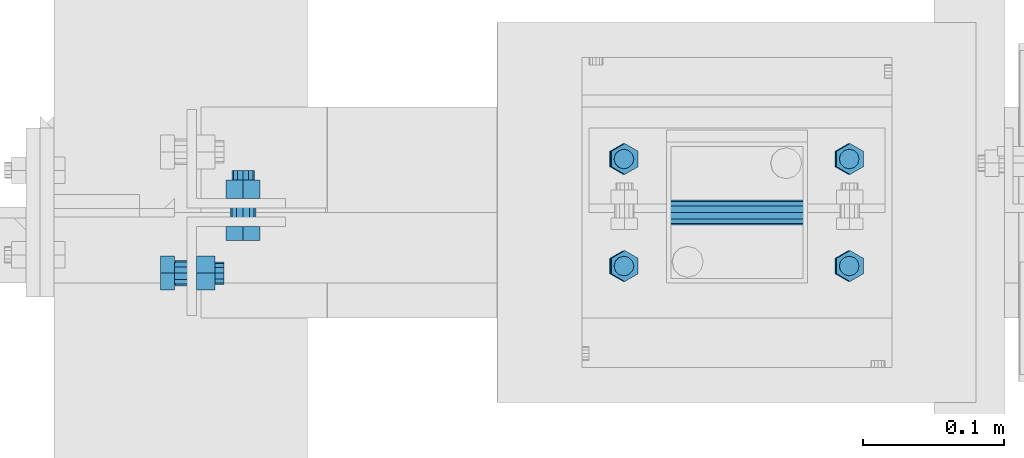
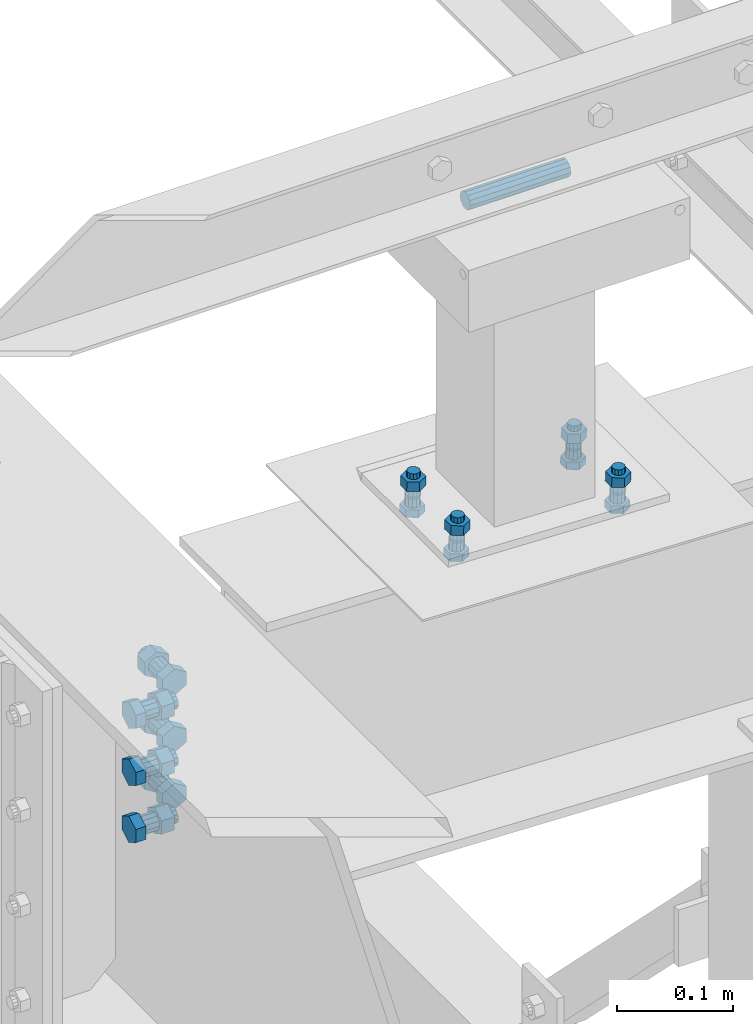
# One storey, part 38 of 3134: 5 mechanical fasteners, 3 elements without a shape of their own.
"""IFC2X3 building model written with IfcOpenShell, lengths in millimetres."""

from ifc_helpers import new_model, si_unit, frame, origin_with_axes, place, context, subcontext, project, spatial, faceted_brep, source, transform, mapped, material, type_object, element, aggregate, save


model = new_model("IFC2X3")

# Units and contexts
model_context = context("Model", 3, precision=1e-05, world=origin_with_axes())
body_context = subcontext(model_context, "Body", "Model", "MODEL_VIEW")
ifc_project = project(units=[si_unit("LENGTHUNIT", "METRE", prefix="MILLI"), si_unit("AREAUNIT", "SQUARE_METRE"), si_unit("VOLUMEUNIT", "CUBIC_METRE"), si_unit("MASSUNIT", "GRAM", prefix="KILO"), si_unit("TIMEUNIT", "SECOND"), si_unit("PLANEANGLEUNIT", "RADIAN"), si_unit("SOLIDANGLEUNIT", "STERADIAN"), si_unit("THERMODYNAMICTEMPERATUREUNIT", "DEGREE_CELSIUS"), si_unit("LUMINOUSINTENSITYUNIT", "LUMEN")], contexts=[model_context])

# Site, building, storey
site_placement = place(None, origin_with_axes())
site = spatial("IfcSite", under=ifc_project, at=site_placement, CompositionType="ELEMENT")
building_placement = place(site_placement, origin_with_axes())
building = spatial("IfcBuilding", under=site, at=building_placement, Name="Undefined", CompositionType="ELEMENT")
storey_placement = place(building_placement, origin_with_axes())
storey = spatial("IfcBuildingStorey", under=building, at=storey_placement, Name="Undefined", CompositionType="ELEMENT", Elevation=0.0)

# Assembly, mechanical fasteners
assembly_1_placement = place(storey_placement, origin_with_axes())
assembly_1 = element("IfcElementAssembly", 1, at=assembly_1_placement, inside=storey, AssemblyPlace="NOTDEFINED", PredefinedType="RIGID_FRAME")
ifc_material = material(Name="8.8")
mechanical_fastener_type = type_object("IfcMechanicalFastenerType", Name="Bolt assembly")
shared_shape_1 = source(origin_with_axes(), body_context, "Body", "Brep", [
    faceted_brep([(13.856406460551, -18.5936482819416, 0.0), (6.92820323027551, -18.5936482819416, 12.0), (-6.92820323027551, -18.5936482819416, 12.0), (-13.856406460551, -18.5936482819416, 1.69692038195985e-15), (-6.92820323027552, -18.5936482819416, -12.0), (6.9282032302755, -18.5936482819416, -12.0), (6.9282032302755, -8.59364828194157, -12.0), (-6.92820323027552, -8.59364828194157, -12.0), (-13.856406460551, -8.59364828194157, 1.69692038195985e-15), (-6.92820323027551, -8.59364828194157, 12.0), (6.92820323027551, -8.59364828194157, 12.0), (13.856406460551, -8.59364828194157, 0.0), (8.0, -8.59364828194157, 0.0), (6.92820323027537, -8.59364828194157, 4.00000000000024), (3.99999999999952, -8.59364828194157, 6.92820323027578), (-8.29068785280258e-13, -8.59364828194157, 8.0), (-4.00000000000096, -8.59364828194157, 6.92820323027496), (-6.9282032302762, -8.59364828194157, 3.99999999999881), (-8.0, -8.59364828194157, -1.65813757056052e-12), (-6.92820323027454, -8.59364828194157, -4.00000000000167), (-3.99999999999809, -8.59364828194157, -6.92820323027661), (2.47832457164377e-12, -8.59364828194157, -8.0), (4.00000000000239, -8.59364828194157, -6.92820323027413), (6.92820323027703, -8.59364828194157, -3.99999999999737), (6.92820323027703, 26.4063517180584, -3.99999999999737), (4.00000000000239, 26.4063517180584, -6.92820323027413), (2.47832457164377e-12, 26.4063517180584, -8.0), (-3.99999999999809, 26.4063517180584, -6.92820323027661), (-6.92820323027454, 26.4063517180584, -4.00000000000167), (-8.0, 26.4063517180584, -1.65813757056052e-12), (-6.9282032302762, 26.4063517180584, 3.99999999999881), (-4.00000000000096, 26.4063517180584, 6.92820323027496), (-8.29068785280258e-13, 26.4063517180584, 8.0), (3.99999999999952, 26.4063517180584, 6.92820323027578), (6.92820323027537, 26.4063517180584, 4.00000000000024), (8.0, 26.4063517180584, 0.0), (13.856406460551, 7.0, 0.0), (6.92820323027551, 7.0, 12.0), (-6.92820323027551, 7.0, 12.0), (-13.856406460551, 7.0, 1.69692038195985e-15), (-6.92820323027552, 7.0, -12.0), (6.9282032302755, 7.0, -12.0), (6.9282032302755, 20.0, -12.0), (-6.92820323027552, 20.0, -12.0), (-13.856406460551, 20.0, 1.69692038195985e-15), (-6.92820323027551, 20.0, 12.0), (6.92820323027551, 20.0, 12.0), (13.856406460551, 20.0, 0.0)], [[[0, 1, 2, 3, 4, 5]], [[6, 7, 8, 9, 10, 11]], [[0, 11, 10, 1]], [[1, 10, 9, 2]], [[2, 9, 8, 3]], [[3, 8, 7, 4]], [[4, 7, 6, 5]], [[5, 6, 11, 0]], [[12, 13, 14, 15, 16, 17, 18, 19, 20, 21, 22, 23]], [[24, 25, 26, 27, 28, 29, 30, 31, 32, 33, 34, 35]], [[12, 35, 34, 13]], [[13, 34, 33, 14]], [[14, 33, 32, 15]], [[15, 32, 31, 16]], [[16, 31, 30, 17]], [[17, 30, 29, 18]], [[18, 29, 28, 19]], [[19, 28, 27, 20]], [[20, 27, 26, 21]], [[21, 26, 25, 22]], [[22, 25, 24, 23]], [[23, 24, 35, 12]], [[36, 37, 38, 39, 40, 41]], [[42, 43, 44, 45, 46, 47]], [[36, 47, 46, 37]], [[37, 46, 45, 38]], [[38, 45, 44, 39]], [[39, 44, 43, 40]], [[40, 43, 42, 41]], [[41, 42, 47, 36]]]),
    faceted_brep([(9.0, -8.49364828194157, 0.0), (7.79422863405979, -8.49364828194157, 4.50000000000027), (4.49999999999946, -8.49364828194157, 7.79422863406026), (-9.3270238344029e-13, -8.49364828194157, 9.0), (-4.50000000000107, -8.49364828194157, 7.79422863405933), (-7.79422863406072, -8.49364828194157, 4.49999999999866), (-9.0, -8.49364828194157, -1.86540476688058e-12), (-7.79422863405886, -8.49364828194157, -4.50000000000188), (-4.49999999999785, -8.49364828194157, -7.79422863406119), (2.78811514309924e-12, -8.49364828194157, -9.0), (4.50000000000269, -8.49364828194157, -7.7942286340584), (7.79422863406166, -8.49364828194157, -4.49999999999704), (7.79422863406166, 0.10635209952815, -4.49999999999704), (4.50000000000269, 0.10635209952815, -7.7942286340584), (2.78811514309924e-12, 0.10635209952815, -9.0), (-4.49999999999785, 0.10635209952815, -7.79422863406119), (-7.79422863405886, 0.10635209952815, -4.50000000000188), (-9.0, 0.10635209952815, -1.86540476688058e-12), (-7.79422863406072, 0.10635209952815, 4.49999999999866), (-4.50000000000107, 0.10635209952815, 7.79422863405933), (-9.3270238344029e-13, 0.10635209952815, 9.0), (4.49999999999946, 0.10635209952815, 7.79422863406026), (7.79422863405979, 0.10635209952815, 4.50000000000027), (9.0, 0.10635209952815, 0.0), (9.0, -0.1, 0.0), (7.79422863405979, -0.1, 4.50000000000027), (4.49999999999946, -0.1, 7.79422863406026), (-9.3270238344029e-13, -0.1, 9.0), (-4.50000000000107, -0.1, 7.79422863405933), (-7.79422863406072, -0.1, 4.49999999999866), (-9.0, -0.1, -1.86540476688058e-12), (-7.79422863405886, -0.1, -4.50000000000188), (-4.49999999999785, -0.1, -7.79422863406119), (2.78811514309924e-12, -0.1, -9.0), (4.50000000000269, -0.1, -7.7942286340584), (7.79422863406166, -0.1, -4.49999999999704), (7.79422863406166, 7.0, -4.49999999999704), (4.50000000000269, 7.0, -7.7942286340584), (2.78811514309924e-12, 7.0, -9.0), (-4.49999999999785, 7.0, -7.79422863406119), (-7.79422863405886, 7.0, -4.50000000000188), (-9.0, 7.0, -1.86540476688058e-12), (-7.79422863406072, 7.0, 4.49999999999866), (-4.50000000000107, 7.0, 7.79422863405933), (-9.3270238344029e-13, 7.0, 9.0), (4.49999999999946, 7.0, 7.79422863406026), (7.79422863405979, 7.0, 4.50000000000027), (9.0, 7.0, 0.0)], [[[0, 1, 2, 3, 4, 5, 6, 7, 8, 9, 10, 11]], [[12, 13, 14, 15, 16, 17, 18, 19, 20, 21, 22, 23]], [[0, 23, 22, 1]], [[1, 22, 21, 2]], [[2, 21, 20, 3]], [[3, 20, 19, 4]], [[4, 19, 18, 5]], [[5, 18, 17, 6]], [[6, 17, 16, 7]], [[7, 16, 15, 8]], [[8, 15, 14, 9]], [[9, 14, 13, 10]], [[10, 13, 12, 11]], [[11, 12, 23, 0]], [[24, 25, 26, 27, 28, 29, 30, 31, 32, 33, 34, 35]], [[36, 37, 38, 39, 40, 41, 42, 43, 44, 45, 46, 47]], [[24, 47, 46, 25]], [[25, 46, 45, 26]], [[26, 45, 44, 27]], [[27, 44, 43, 28]], [[28, 43, 42, 29]], [[29, 42, 41, 30]], [[30, 41, 40, 31]], [[31, 40, 39, 32]], [[32, 39, 38, 33]], [[33, 38, 37, 34]], [[34, 37, 36, 35]], [[35, 36, 47, 24]]]),
])
mechanical_fastener_1_placement = place(assembly_1_placement, frame((4.29364809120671, 17276.96, 3841.86727512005), z_axis=(0.0, 1.0, 0.0), x_axis=(0.0, 0.0, 1.0)))
mechanical_fastener_1 = element("IfcMechanicalFastener", 2, at=mechanical_fastener_1_placement, type_object=mechanical_fastener_type, material=ifc_material, Name="Bolt assembly", NominalDiameter=16.0, NominalLength=35.0, context=body_context, shape_type="MappedRepresentation", body=[
    mapped(shared_shape_1, transform((0.0, 0.0, 0.0))),
    mapped(shared_shape_1, transform((59.9999999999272, 0.0, 5.40239852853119e-10))),
    mapped(shared_shape_1, transform((120.0, 0.0, 0.0))),
])
shared_shape_2 = source(origin_with_axes(), body_context, "Body", "Brep", [
    faceted_brep([(13.856406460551, -20.0400000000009, 0.0), (6.92820323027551, -20.0400000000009, 12.0), (-6.92820323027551, -20.0400000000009, 12.0), (-13.856406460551, -20.0400000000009, 1.69692038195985e-15), (-6.92820323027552, -20.0400000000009, -12.0), (6.9282032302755, -20.0400000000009, -12.0), (6.9282032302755, -10.0400000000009, -12.0), (-6.92820323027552, -10.0400000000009, -12.0), (-13.856406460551, -10.0400000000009, 1.69692038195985e-15), (-6.92820323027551, -10.0400000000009, 12.0), (6.92820323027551, -10.0400000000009, 12.0), (13.856406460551, -10.0400000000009, 0.0), (8.0, -10.0400000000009, 0.0), (6.92820323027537, -10.0400000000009, 4.00000000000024), (3.99999999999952, -10.0400000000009, 6.92820323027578), (-8.29068785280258e-13, -10.0400000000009, 8.0), (-4.00000000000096, -10.0400000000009, 6.92820323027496), (-6.9282032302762, -10.0400000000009, 3.99999999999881), (-8.0, -10.0400000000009, -1.65813757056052e-12), (-6.92820323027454, -10.0400000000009, -4.00000000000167), (-3.99999999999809, -10.0400000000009, -6.92820323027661), (2.47832457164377e-12, -10.0400000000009, -8.0), (4.00000000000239, -10.0400000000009, -6.92820323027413), (6.92820323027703, -10.0400000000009, -3.99999999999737), (6.92820323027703, 29.9599999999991, -3.99999999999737), (4.00000000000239, 29.9599999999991, -6.92820323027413), (2.47832457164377e-12, 29.9599999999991, -8.0), (-3.99999999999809, 29.9599999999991, -6.92820323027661), (-6.92820323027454, 29.9599999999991, -4.00000000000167), (-8.0, 29.9599999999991, -1.65813757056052e-12), (-6.9282032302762, 29.9599999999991, 3.99999999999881), (-4.00000000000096, 29.9599999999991, 6.92820323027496), (-8.29068785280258e-13, 29.9599999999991, 8.0), (3.99999999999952, 29.9599999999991, 6.92820323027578), (6.92820323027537, 29.9599999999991, 4.00000000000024), (8.0, 29.9599999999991, 0.0), (13.856406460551, 10.0400000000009, 0.0), (6.92820323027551, 10.0400000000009, 12.0), (-6.92820323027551, 10.0400000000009, 12.0), (-13.856406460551, 10.0400000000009, 1.69692038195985e-15), (-6.92820323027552, 10.0400000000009, -12.0), (6.9282032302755, 10.0400000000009, -12.0), (6.9282032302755, 23.0400000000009, -12.0), (-6.92820323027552, 23.0400000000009, -12.0), (-13.856406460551, 23.0400000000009, 1.69692038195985e-15), (-6.92820323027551, 23.0400000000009, 12.0), (6.92820323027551, 23.0400000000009, 12.0), (13.856406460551, 23.0400000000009, 0.0)], [[[0, 1, 2, 3, 4, 5]], [[6, 7, 8, 9, 10, 11]], [[0, 11, 10, 1]], [[1, 10, 9, 2]], [[2, 9, 8, 3]], [[3, 8, 7, 4]], [[4, 7, 6, 5]], [[5, 6, 11, 0]], [[12, 13, 14, 15, 16, 17, 18, 19, 20, 21, 22, 23]], [[24, 25, 26, 27, 28, 29, 30, 31, 32, 33, 34, 35]], [[12, 35, 34, 13]], [[13, 34, 33, 14]], [[14, 33, 32, 15]], [[15, 32, 31, 16]], [[16, 31, 30, 17]], [[17, 30, 29, 18]], [[18, 29, 28, 19]], [[19, 28, 27, 20]], [[20, 27, 26, 21]], [[21, 26, 25, 22]], [[22, 25, 24, 23]], [[23, 24, 35, 12]], [[36, 37, 38, 39, 40, 41]], [[42, 43, 44, 45, 46, 47]], [[36, 47, 46, 37]], [[37, 46, 45, 38]], [[38, 45, 44, 39]], [[39, 44, 43, 40]], [[40, 43, 42, 41]], [[41, 42, 47, 36]]]),
    faceted_brep([(9.0, -3.04999995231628, 0.0), (7.79422863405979, -3.04999995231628, 4.50000000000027), (4.49999999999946, -3.04999995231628, 7.79422863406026), (-9.3270238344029e-13, -3.04999995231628, 9.0), (-4.50000000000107, -3.04999995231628, 7.79422863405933), (-7.79422863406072, -3.04999995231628, 4.49999999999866), (-9.0, -3.04999995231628, -1.86540476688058e-12), (-7.79422863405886, -3.04999995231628, -4.50000000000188), (-4.49999999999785, -3.04999995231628, -7.79422863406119), (2.78811514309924e-12, -3.04999995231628, -9.0), (4.50000000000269, -3.04999995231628, -7.7942286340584), (7.79422863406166, -3.04999995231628, -4.49999999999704), (7.79422863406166, 3.04999995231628, -4.49999999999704), (4.50000000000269, 3.04999995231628, -7.7942286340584), (2.78811514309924e-12, 3.04999995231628, -9.0), (-4.49999999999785, 3.04999995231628, -7.79422863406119), (-7.79422863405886, 3.04999995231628, -4.50000000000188), (-9.0, 3.04999995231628, -1.86540476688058e-12), (-7.79422863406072, 3.04999995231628, 4.49999999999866), (-4.50000000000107, 3.04999995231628, 7.79422863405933), (-9.3270238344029e-13, 3.04999995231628, 9.0), (4.49999999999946, 3.04999995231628, 7.79422863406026), (7.79422863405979, 3.04999995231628, 4.50000000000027), (9.0, 3.04999995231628, 0.0), (9.0, -9.94000000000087, 0.0), (7.79422863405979, -9.94000000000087, 4.50000000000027), (4.49999999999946, -9.94000000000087, 7.79422863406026), (-9.3270238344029e-13, -9.94000000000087, 9.0), (-4.50000000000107, -9.94000000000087, 7.79422863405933), (-7.79422863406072, -9.94000000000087, 4.49999999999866), (-9.0, -9.94000000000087, -1.86540476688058e-12), (-7.79422863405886, -9.94000000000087, -4.50000000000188), (-4.49999999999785, -9.94000000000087, -7.79422863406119), (2.78811514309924e-12, -9.94000000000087, -9.0), (4.50000000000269, -9.94000000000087, -7.7942286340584), (7.79422863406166, -9.94000000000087, -4.49999999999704), (7.79422863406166, -2.94000000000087, -4.49999999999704), (4.50000000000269, -2.94000000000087, -7.7942286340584), (2.78811514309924e-12, -2.94000000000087, -9.0), (-4.49999999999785, -2.94000000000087, -7.79422863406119), (-7.79422863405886, -2.94000000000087, -4.50000000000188), (-9.0, -2.94000000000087, -1.86540476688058e-12), (-7.79422863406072, -2.94000000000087, 4.49999999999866), (-4.50000000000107, -2.94000000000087, 7.79422863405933), (-9.3270238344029e-13, -2.94000000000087, 9.0), (4.49999999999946, -2.94000000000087, 7.79422863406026), (7.79422863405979, -2.94000000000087, 4.50000000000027), (9.0, -2.94000000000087, 0.0), (9.0, 2.94000000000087, 0.0), (7.79422863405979, 2.94000000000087, 4.50000000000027), (4.49999999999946, 2.94000000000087, 7.79422863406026), (-9.3270238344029e-13, 2.94000000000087, 9.0), (-4.50000000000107, 2.94000000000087, 7.79422863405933), (-7.79422863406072, 2.94000000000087, 4.49999999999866), (-9.0, 2.94000000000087, -1.86540476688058e-12), (-7.79422863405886, 2.94000000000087, -4.50000000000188), (-4.49999999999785, 2.94000000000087, -7.79422863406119), (2.78811514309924e-12, 2.94000000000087, -9.0), (4.50000000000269, 2.94000000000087, -7.7942286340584), (7.79422863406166, 2.94000000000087, -4.49999999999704), (7.79422863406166, 10.0400000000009, -4.49999999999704), (4.50000000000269, 10.0400000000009, -7.7942286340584), (2.78811514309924e-12, 10.0400000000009, -9.0), (-4.49999999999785, 10.0400000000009, -7.79422863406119), (-7.79422863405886, 10.0400000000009, -4.50000000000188), (-9.0, 10.0400000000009, -1.86540476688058e-12), (-7.79422863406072, 10.0400000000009, 4.49999999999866), (-4.50000000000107, 10.0400000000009, 7.79422863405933), (-9.3270238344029e-13, 10.0400000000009, 9.0), (4.49999999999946, 10.0400000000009, 7.79422863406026), (7.79422863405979, 10.0400000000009, 4.50000000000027), (9.0, 10.0400000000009, 0.0)], [[[0, 1, 2, 3, 4, 5, 6, 7, 8, 9, 10, 11]], [[12, 13, 14, 15, 16, 17, 18, 19, 20, 21, 22, 23]], [[0, 23, 22, 1]], [[1, 22, 21, 2]], [[2, 21, 20, 3]], [[3, 20, 19, 4]], [[4, 19, 18, 5]], [[5, 18, 17, 6]], [[6, 17, 16, 7]], [[7, 16, 15, 8]], [[8, 15, 14, 9]], [[9, 14, 13, 10]], [[10, 13, 12, 11]], [[11, 12, 23, 0]], [[24, 25, 26, 27, 28, 29, 30, 31, 32, 33, 34, 35]], [[36, 37, 38, 39, 40, 41, 42, 43, 44, 45, 46, 47]], [[24, 47, 46, 25]], [[25, 46, 45, 26]], [[26, 45, 44, 27]], [[27, 44, 43, 28]], [[28, 43, 42, 29]], [[29, 42, 41, 30]], [[30, 41, 40, 31]], [[31, 40, 39, 32]], [[32, 39, 38, 33]], [[33, 38, 37, 34]], [[34, 37, 36, 35]], [[35, 36, 47, 24]], [[48, 49, 50, 51, 52, 53, 54, 55, 56, 57, 58, 59]], [[60, 61, 62, 63, 64, 65, 66, 67, 68, 69, 70, 71]], [[48, 71, 70, 49]], [[49, 70, 69, 50]], [[50, 69, 68, 51]], [[51, 68, 67, 52]], [[52, 67, 66, 53]], [[53, 66, 65, 54]], [[54, 65, 64, 55]], [[55, 64, 63, 56]], [[56, 63, 62, 57]], [[57, 62, 61, 58]], [[58, 61, 60, 59]], [[59, 60, 71, 48]]]),
])
mechanical_fastener_2_placement = place(assembly_1_placement, frame((44.2936480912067, 17320.0, 3841.86727512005), z_axis=(-1.0, 0.0, 0.0), x_axis=(0.0, 0.0, 1.0)))
mechanical_fastener_2 = element("IfcMechanicalFastener", 3, at=mechanical_fastener_2_placement, type_object=mechanical_fastener_type, material=ifc_material, Name="Bolt assembly", NominalDiameter=16.0, NominalLength=40.0, context=body_context, shape_type="MappedRepresentation", body=[
    mapped(shared_shape_2, transform((0.0, 0.0, 0.0))),
    mapped(shared_shape_2, transform((59.9999999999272, 0.0, 5.40239852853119e-10))),
    mapped(shared_shape_2, transform((120.0, 0.0, 0.0))),
])
aggregate(assembly_1, [mechanical_fastener_1, mechanical_fastener_2])

# Assembly, mechanical fastener
assembly_2_placement = place(storey_placement, origin_with_axes())
assembly_2 = element("IfcElementAssembly", 4, at=assembly_2_placement, inside=storey, AssemblyPlace="NOTDEFINED", PredefinedType="RIGID_FRAME")
shared_shape_3 = source(origin_with_axes(), body_context, "Body", "Brep", [
    faceted_brep([(10.9696551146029, -4.19432770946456, 0.0), (5.48482755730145, -4.19432770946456, 9.5), (-5.48482755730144, -4.19432770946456, 9.5), (-10.9696551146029, -4.19432770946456, 1.34339530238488e-15), (-5.48482755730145, -4.19432770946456, -9.5), (5.48482755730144, -4.19432770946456, -9.50000000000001), (5.48482755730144, 3.80567229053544, -9.50000000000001), (-5.48482755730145, 3.80567229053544, -9.5), (-10.9696551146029, 3.80567229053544, 1.34339530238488e-15), (-5.48482755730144, 3.80567229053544, 9.5), (5.48482755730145, 3.80567229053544, 9.5), (10.9696551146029, 3.80567229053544, 0.0), (6.0, 3.80567229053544, 0.0), (5.19615242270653, 3.80567229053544, 3.00000000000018), (2.99999999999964, 3.80567229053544, 5.19615242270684), (-6.21801588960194e-13, 3.80567229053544, 6.0), (-3.00000000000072, 3.80567229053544, 5.19615242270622), (-5.19615242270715, 3.80567229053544, 2.9999999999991), (-6.0, 3.80567229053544, -1.24360317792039e-12), (-5.19615242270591, 3.80567229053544, -3.00000000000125), (-2.99999999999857, 3.80567229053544, -5.19615242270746), (1.85874342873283e-12, 3.80567229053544, -6.0), (3.00000000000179, 3.80567229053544, -5.1961524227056), (5.19615242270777, 3.80567229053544, -2.99999999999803), (5.19615242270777, 38.8056722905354, -2.99999999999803), (3.00000000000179, 38.8056722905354, -5.1961524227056), (1.85874342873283e-12, 38.8056722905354, -6.0), (-2.99999999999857, 38.8056722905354, -5.19615242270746), (-5.19615242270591, 38.8056722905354, -3.00000000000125), (-6.0, 38.8056722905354, -1.24360317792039e-12), (-5.19615242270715, 38.8056722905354, 2.9999999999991), (-3.00000000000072, 38.8056722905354, 5.19615242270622), (-6.21801588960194e-13, 38.8056722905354, 6.0), (2.99999999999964, 38.8056722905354, 5.19615242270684), (5.19615242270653, 38.8056722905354, 3.00000000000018), (6.0, 38.8056722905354, 0.0), (10.9696551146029, 23.0139082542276, 0.0), (5.48482755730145, 23.0139082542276, 9.5), (-5.48482755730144, 23.0139082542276, 9.5), (-10.9696551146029, 23.0139082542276, 1.34339530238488e-15), (-5.48482755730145, 23.0139082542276, -9.5), (5.48482755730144, 23.0139082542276, -9.50000000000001), (5.48482755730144, 33.0139082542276, -9.50000000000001), (-5.48482755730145, 33.0139082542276, -9.5), (-10.9696551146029, 33.0139082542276, 1.34339530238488e-15), (-5.48482755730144, 33.0139082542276, 9.5), (5.48482755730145, 33.0139082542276, 9.5), (10.9696551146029, 33.0139082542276, 0.0)], [[[0, 1, 2, 3, 4, 5]], [[6, 7, 8, 9, 10, 11]], [[0, 11, 10, 1]], [[1, 10, 9, 2]], [[2, 9, 8, 3]], [[3, 8, 7, 4]], [[4, 7, 6, 5]], [[5, 6, 11, 0]], [[12, 13, 14, 15, 16, 17, 18, 19, 20, 21, 22, 23]], [[24, 25, 26, 27, 28, 29, 30, 31, 32, 33, 34, 35]], [[12, 35, 34, 13]], [[13, 34, 33, 14]], [[14, 33, 32, 15]], [[15, 32, 31, 16]], [[16, 31, 30, 17]], [[17, 30, 29, 18]], [[18, 29, 28, 19]], [[19, 28, 27, 20]], [[20, 27, 26, 21]], [[21, 26, 25, 22]], [[22, 25, 24, 23]], [[23, 24, 35, 12]], [[36, 37, 38, 39, 40, 41]], [[42, 43, 44, 45, 46, 47]], [[36, 47, 46, 37]], [[37, 46, 45, 38]], [[38, 45, 44, 39]], [[39, 44, 43, 40]], [[40, 43, 42, 41]], [[41, 42, 47, 36]]]),
    faceted_brep([(7.0, 3.90567229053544, 0.0), (6.06217782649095, 3.90567229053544, 3.50000000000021), (3.49999999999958, 3.90567229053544, 6.06217782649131), (-7.25435187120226e-13, 3.90567229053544, 7.0), (-3.50000000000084, 3.90567229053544, 6.06217782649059), (-6.06217782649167, 3.90567229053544, 3.49999999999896), (-7.0, 3.90567229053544, -1.45087037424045e-12), (-6.06217782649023, 3.90567229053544, -3.50000000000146), (-3.49999999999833, 3.90567229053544, -6.06217782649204), (2.1685340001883e-12, 3.90567229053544, -7.0), (3.50000000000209, 3.90567229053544, -6.06217782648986), (6.0621778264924, 3.90567229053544, -3.4999999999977), (6.0621778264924, 13.1056721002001, -3.4999999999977), (3.50000000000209, 13.1056721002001, -6.06217782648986), (2.1685340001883e-12, 13.1056721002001, -7.0), (-3.49999999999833, 13.1056721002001, -6.06217782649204), (-6.06217782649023, 13.1056721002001, -3.50000000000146), (-7.0, 13.1056721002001, -1.45087037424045e-12), (-6.06217782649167, 13.1056721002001, 3.49999999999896), (-3.50000000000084, 13.1056721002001, 6.06217782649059), (-7.25435187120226e-13, 13.1056721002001, 7.0), (3.49999999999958, 13.1056721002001, 6.06217782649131), (6.06217782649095, 13.1056721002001, 3.50000000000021), (7.0, 13.1056721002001, 0.0), (7.0, 14.9139082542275, 0.0), (6.06217782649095, 14.9139082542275, 3.50000000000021), (3.49999999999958, 14.9139082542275, 6.06217782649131), (-7.25435187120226e-13, 14.9139082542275, 7.0), (-3.50000000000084, 14.9139082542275, 6.06217782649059), (-6.06217782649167, 14.9139082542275, 3.49999999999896), (-7.0, 14.9139082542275, -1.45087037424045e-12), (-6.06217782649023, 14.9139082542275, -3.50000000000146), (-3.49999999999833, 14.9139082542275, -6.06217782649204), (2.1685340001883e-12, 14.9139082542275, -7.0), (3.50000000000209, 14.9139082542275, -6.06217782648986), (6.0621778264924, 14.9139082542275, -3.4999999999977), (6.0621778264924, 23.0139082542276, -3.4999999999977), (3.50000000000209, 23.0139082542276, -6.06217782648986), (2.1685340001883e-12, 23.0139082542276, -7.0), (-3.49999999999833, 23.0139082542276, -6.06217782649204), (-6.06217782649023, 23.0139082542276, -3.50000000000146), (-7.0, 23.0139082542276, -1.45087037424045e-12), (-6.06217782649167, 23.0139082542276, 3.49999999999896), (-3.50000000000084, 23.0139082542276, 6.06217782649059), (-7.25435187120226e-13, 23.0139082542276, 7.0), (3.49999999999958, 23.0139082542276, 6.06217782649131), (6.06217782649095, 23.0139082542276, 3.50000000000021), (7.0, 23.0139082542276, 0.0)], [[[0, 1, 2, 3, 4, 5, 6, 7, 8, 9, 10, 11]], [[12, 13, 14, 15, 16, 17, 18, 19, 20, 21, 22, 23]], [[0, 23, 22, 1]], [[1, 22, 21, 2]], [[2, 21, 20, 3]], [[3, 20, 19, 4]], [[4, 19, 18, 5]], [[5, 18, 17, 6]], [[6, 17, 16, 7]], [[7, 16, 15, 8]], [[8, 15, 14, 9]], [[9, 14, 13, 10]], [[10, 13, 12, 11]], [[11, 12, 23, 0]], [[24, 25, 26, 27, 28, 29, 30, 31, 32, 33, 34, 35]], [[36, 37, 38, 39, 40, 41, 42, 43, 44, 45, 46, 47]], [[24, 47, 46, 25]], [[25, 46, 45, 26]], [[26, 45, 44, 27]], [[27, 44, 43, 28]], [[28, 43, 42, 29]], [[29, 42, 41, 30]], [[30, 41, 40, 31]], [[31, 40, 39, 32]], [[32, 39, 38, 33]], [[33, 38, 37, 34]], [[34, 37, 36, 35]], [[35, 36, 47, 24]]]),
])
mechanical_fastener_3_placement = place(assembly_2_placement, frame((394.193176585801, 17357.9999999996, 4013.19000668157), z_axis=(-0.999387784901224, 0.0, 0.0349865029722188), x_axis=(0.0, -1.0, 0.0)))
mechanical_fastener_3 = element("IfcMechanicalFastener", 5, at=mechanical_fastener_3_placement, type_object=mechanical_fastener_type, material=ifc_material, Name="Bolt assembly", NominalDiameter=12.0, NominalLength=35.0, context=body_context, shape_type="MappedRepresentation", body=[
    mapped(shared_shape_3, transform((0.0, -5.32963895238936e-10, -79.9999999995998))),
    mapped(shared_shape_3, transform((76.0, -5.32963895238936e-10, -79.9999999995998))),
    mapped(shared_shape_3, transform((0.0, 5.3114490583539e-10, 79.9999999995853))),
    mapped(shared_shape_3, transform((76.0, 5.3114490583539e-10, 79.9999999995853))),
])

assembly_3_placement = place(storey_placement, origin_with_axes())
assembly_3 = element("IfcElementAssembly", 6, at=assembly_3_placement, inside=storey, AssemblyPlace="NOTDEFINED", PredefinedType="RIGID_FRAME")
shared_shape_4 = source(origin_with_axes(), body_context, "Body", "Brep", [
    faceted_brep([(7.0, 13.0000253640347, 0.0), (6.06217782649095, 13.0000253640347, 3.50000000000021), (3.49999999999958, 13.0000253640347, 6.06217782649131), (-7.25435187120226e-13, 13.0000253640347, 7.0), (-3.50000000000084, 13.0000253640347, 6.06217782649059), (-6.06217782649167, 13.0000253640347, 3.49999999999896), (-7.0, 13.0000253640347, -1.45087037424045e-12), (-6.06217782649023, 13.0000253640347, -3.50000000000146), (-3.49999999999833, 13.0000253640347, -6.06217782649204), (2.1685340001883e-12, 13.0000253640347, -7.0), (3.50000000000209, 13.0000253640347, -6.06217782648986), (6.0621778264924, 13.0000253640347, -3.4999999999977), (6.0621778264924, 15.0999999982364, -3.4999999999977), (3.50000000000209, 15.0999999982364, -6.06217782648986), (2.1685340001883e-12, 15.0999999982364, -7.0), (-3.49999999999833, 15.0999999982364, -6.06217782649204), (-6.06217782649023, 15.0999999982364, -3.50000000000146), (-7.0, 15.0999999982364, -1.45087037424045e-12), (-6.06217782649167, 15.0999999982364, 3.49999999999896), (-3.50000000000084, 15.0999999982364, 6.06217782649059), (-7.25435187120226e-13, 15.0999999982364, 7.0), (3.49999999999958, 15.0999999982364, 6.06217782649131), (6.06217782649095, 15.0999999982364, 3.50000000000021), (7.0, 15.0999999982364, 0.0)], [[[0, 1, 2, 3, 4, 5, 6, 7, 8, 9, 10, 11]], [[12, 13, 14, 15, 16, 17, 18, 19, 20, 21, 22, 23]], [[0, 23, 22, 1]], [[1, 22, 21, 2]], [[2, 21, 20, 3]], [[3, 20, 19, 4]], [[4, 19, 18, 5]], [[5, 18, 17, 6]], [[6, 17, 16, 7]], [[7, 16, 15, 8]], [[8, 15, 14, 9]], [[9, 14, 13, 10]], [[10, 13, 12, 11]], [[11, 12, 23, 0]]]),
])
mechanical_fastener_4_placement = place(assembly_3_placement, frame((394.193176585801, 17357.9999999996, 4013.19000668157), z_axis=(-0.999387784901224, 0.0, 0.0349865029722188), x_axis=(0.0, -1.0, 0.0)))
mechanical_fastener_4 = element("IfcMechanicalFastener", 7, at=mechanical_fastener_4_placement, type_object=mechanical_fastener_type, material=ifc_material, Name="Bolt assembly", NominalDiameter=12.0, NominalLength=2.0, context=body_context, shape_type="MappedRepresentation", body=[
    mapped(shared_shape_4, transform((0.0, -5.32963895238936e-10, -79.9999999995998))),
    mapped(shared_shape_4, transform((76.0, -5.32963895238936e-10, -79.9999999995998))),
    mapped(shared_shape_4, transform((0.0, 5.3114490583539e-10, 79.9999999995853))),
    mapped(shared_shape_4, transform((76.0, 5.3114490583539e-10, 79.9999999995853))),
])
aggregate(assembly_3, [mechanical_fastener_4])

# Mechanical fastener
shared_shape_5 = source(origin_with_axes(), body_context, "Body", "Brep", [
    faceted_brep([(9.0, -50.0, 0.0), (7.79422863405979, -50.0, 4.50000000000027), (4.49999999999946, -50.0, 7.79422863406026), (-9.3270238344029e-13, -50.0, 9.0), (-4.50000000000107, -50.0, 7.79422863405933), (-7.79422863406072, -50.0, 4.49999999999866), (-9.0, -50.0, -1.86540476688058e-12), (-7.79422863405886, -50.0, -4.50000000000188), (-4.49999999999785, -50.0, -7.79422863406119), (2.78811514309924e-12, -50.0, -9.0), (4.50000000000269, -50.0, -7.7942286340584), (7.79422863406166, -50.0, -4.49999999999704), (7.79422863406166, 50.1, -4.49999999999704), (4.50000000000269, 50.1, -7.7942286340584), (2.78811514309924e-12, 50.1, -9.0), (-4.49999999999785, 50.1, -7.79422863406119), (-7.79422863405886, 50.1, -4.50000000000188), (-9.0, 50.1, -1.86540476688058e-12), (-7.79422863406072, 50.1, 4.49999999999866), (-4.50000000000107, 50.1, 7.79422863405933), (-9.3270238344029e-13, 50.1, 9.0), (4.49999999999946, 50.1, 7.79422863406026), (7.79422863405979, 50.1, 4.50000000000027), (9.0, 50.1, 0.0)], [[[0, 1, 2, 3, 4, 5, 6, 7, 8, 9, 10, 11]], [[12, 13, 14, 15, 16, 17, 18, 19, 20, 21, 22, 23]], [[0, 23, 22, 1]], [[1, 22, 21, 2]], [[2, 21, 20, 3]], [[3, 20, 19, 4]], [[4, 19, 18, 5]], [[5, 18, 17, 6]], [[6, 17, 16, 7]], [[7, 16, 15, 8]], [[8, 15, 14, 9]], [[9, 14, 13, 10]], [[10, 13, 12, 11]], [[11, 12, 23, 0]]]),
])
mechanical_fastener_5_placement = place(assembly_2_placement, frame((395.0, 17320.0, 4351.0), z_axis=(0.0, 1.0, 0.0), x_axis=(0.0, 0.0, 1.0)))
mechanical_fastener_5 = element("IfcMechanicalFastener", 8, at=mechanical_fastener_5_placement, type_object=mechanical_fastener_type, material=ifc_material, Name="Bolt assembly", NominalDiameter=16.0, NominalLength=100.0, context=body_context, shape_type="MappedRepresentation", body=[
    mapped(shared_shape_5, transform((0.0, 0.0, 0.0))),
])

aggregate(assembly_2, [mechanical_fastener_3, mechanical_fastener_5])

save(model, "model.ifc")
